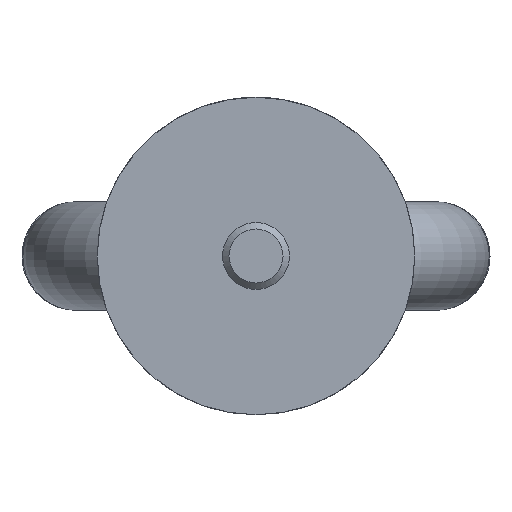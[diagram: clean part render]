
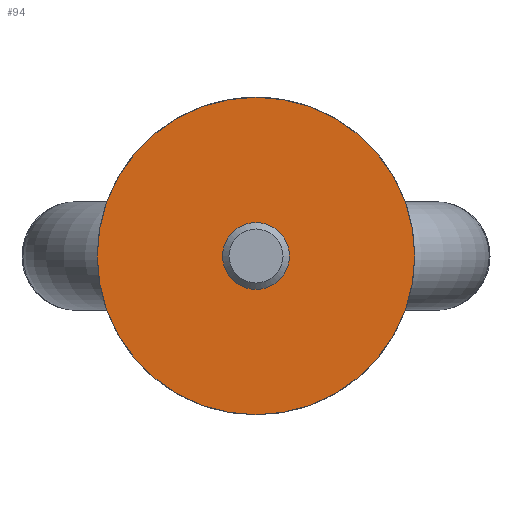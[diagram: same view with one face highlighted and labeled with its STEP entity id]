
A CAD part, front view. The second image highlights one B-rep face of the part: STEP entity #94.
In plain terms, the highlighted planar face has unit normal (0, -1, 0).
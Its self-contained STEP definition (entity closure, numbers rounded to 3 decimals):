
#94 = ADVANCED_FACE( '', ( #151, #152 ), #153, .F. );
#151 = FACE_BOUND( '', #219, .T. );
#152 = FACE_OUTER_BOUND( '', #220, .T. );
#153 = PLANE( '', #221 );
#219 = EDGE_LOOP( '', ( #373 ) );
#220 = EDGE_LOOP( '', ( #374 ) );
#221 = AXIS2_PLACEMENT_3D( '', #375, #376, #377 );
#373 = ORIENTED_EDGE( '', *, *, #456, .T. );
#374 = ORIENTED_EDGE( '', *, *, #438, .T. );
#375 = CARTESIAN_POINT( '', ( 19., 0., 0. ) );
#376 = DIRECTION( '', ( 0., 1., 0. ) );
#377 = DIRECTION( '', ( 0., 0., 1. ) );
#438 = EDGE_CURVE( '', #504, #504, #505, .T. );
#456 = EDGE_CURVE( '', #532, #532, #533, .T. );
#504 = VERTEX_POINT( '', #916 );
#505 = CIRCLE( '', #917, 19. );
#532 = VERTEX_POINT( '', #962 );
#533 = CIRCLE( '', #963, 4. );
#916 = CARTESIAN_POINT( '', ( 0., 0., -19. ) );
#917 = AXIS2_PLACEMENT_3D( '', #1008, #1009, #1010 );
#962 = CARTESIAN_POINT( '', ( 0., 0., 4. ) );
#963 = AXIS2_PLACEMENT_3D( '', #1035, #1036, #1037 );
#1008 = CARTESIAN_POINT( '', ( 0., 0., 0. ) );
#1009 = DIRECTION( '', ( 0., -1., 0. ) );
#1010 = DIRECTION( '', ( 0., 0., -1. ) );
#1035 = CARTESIAN_POINT( '', ( 0., 0., 0. ) );
#1036 = DIRECTION( '', ( 0., 1., 0. ) );
#1037 = DIRECTION( '', ( 0., 0., 1. ) );
